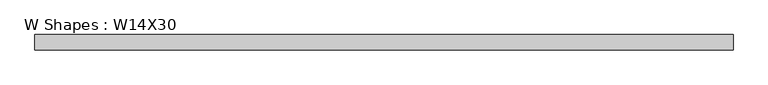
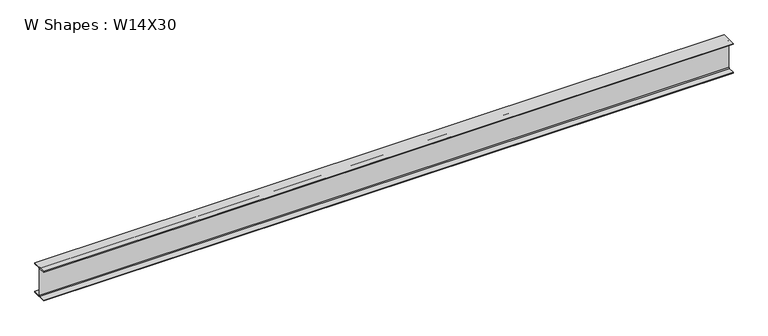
"""IFC4 building model written with IfcOpenShell, lengths in millimetres: beam geometry, W Shapes : W14X30."""

import ifcopenshell
import ifcopenshell.guid

model = None  # the IFC model being written
_history = None  # IfcOwnerHistory: only IFC2X3 demands one
_inside = {}  # id of a spatial element -> (the spatial element, [elements in it])
_under = {}  # id of a project, library or spatial element -> (it, [spatial elements below it])
_declared = {}  # id of a project -> (the project, [libraries it declares])
_typed = {}  # id of a type object -> (the type object, [elements of that type])
_made_of = {}  # id of a material, layer set ... -> (it, [elements and type objects made of it])


def new_model(schema):
    """Start an empty IFC model of exactly this schema.

    Asked for "IFC4X3", IfcOpenShell would pick the latest addendum, in which some entities
    have other attributes; the version numbers below select the first issue.
    IFC2X3 requires an IfcOwnerHistory on every rooted entity: one is made here for all.
    """
    global model, _history
    if schema == "IFC4X3":
        model = ifcopenshell.file(schema_version=(4, 3, 0, 0))
    else:
        model = ifcopenshell.file(schema=schema)
    _inside.clear()
    _under.clear()
    _declared.clear()
    _typed.clear()
    _made_of.clear()
    _history = None
    if model.schema == "IFC2X3":
        org = make("IfcOrganization", Name="unknown")
        user = make(
            "IfcPersonAndOrganization",
            ThePerson=make("IfcPerson", FamilyName="unknown"),
            TheOrganization=org,
        )
        app = make(
            "IfcApplication",
            ApplicationDeveloper=org,
            Version="unknown",
            ApplicationFullName="unknown",
            ApplicationIdentifier="unknown",
        )
        _history = make(
            "IfcOwnerHistory",
            OwningUser=user,
            OwningApplication=app,
            ChangeAction="ADDED",
            CreationDate=0,
        )
    return model


def make(cls, **values):
    """One entity of the class cls with the attributes given. An attribute that is None is left unset."""
    return model.create_entity(
        cls, **{name: value for name, value in values.items() if value is not None}
    )


def rooted(cls, **values):
    """An entity with a GlobalId (a new one), such as an element, a storey or a relation."""
    return make(cls, GlobalId=ifcopenshell.guid.new(), OwnerHistory=_history, **values)


def si_unit(unit_type, name, prefix=None):
    """IfcSIUnit, for example si_unit("LENGTHUNIT", "METRE", prefix="MILLI")."""
    return make("IfcSIUnit", UnitType=unit_type, Prefix=prefix, Name=name)


def assignment(units):
    """IfcUnitAssignment: the units of a project."""
    return None if units is None else make("IfcUnitAssignment", Units=units)


def point(xyz):
    """IfcCartesianPoint."""
    return None if xyz is None else make("IfcCartesianPoint", Coordinates=xyz)


def direction(xyz):
    """IfcDirection."""
    return None if xyz is None else make("IfcDirection", DirectionRatios=xyz)


def frame(location, z_axis=None, x_axis=None):
    """IfcAxis2Placement3D, a coordinate frame: its origin and axes. An axis left out is left unset."""
    return make(
        "IfcAxis2Placement3D",
        Location=point(location),
        Axis=direction(z_axis),
        RefDirection=direction(x_axis),
    )


def frame_2d(location, x_axis=None):
    """IfcAxis2Placement2D, a coordinate frame in the plane: its origin and x axis."""
    return make(
        "IfcAxis2Placement2D", Location=point(location), RefDirection=direction(x_axis)
    )


def origin():
    """The frame at (0, 0, 0) with its axes left unset."""
    return frame((0.0, 0.0, 0.0))


def place(relative_to, where):
    """IfcLocalPlacement: puts the frame where relative to a parent placement (None: the world)."""
    return make(
        "IfcLocalPlacement", PlacementRelTo=relative_to, RelativePlacement=where
    )


def context(
    kind, dimensions, precision=None, world=None, true_north=None, identifier=None
):
    """IfcGeometricRepresentationContext, for example the 3D "Model" context."""
    return make(
        "IfcGeometricRepresentationContext",
        ContextIdentifier=identifier,
        ContextType=kind,
        CoordinateSpaceDimension=dimensions,
        Precision=precision,
        WorldCoordinateSystem=world,
        TrueNorth=true_north,
    )


def project(units=None, contexts=None):
    """IfcProject with its units and contexts."""
    return rooted(
        "IfcProject",
        Name="project",
        RepresentationContexts=contexts,
        UnitsInContext=assignment(units),
    )


def spatial(cls, under=None, at=None, **own):
    """A site, building, storey or space (cls), placed at a placement, below another one or the project."""
    s = rooted(cls, ObjectPlacement=at, **own)
    if under is not None:
        _under.setdefault(under.id(), (under, []))[1].append(s)
    return s


def polyline(points):
    """IfcPolyline through the points."""
    return make("IfcPolyline", Points=[point(p) for p in points])


def circle_curve(where, radius):
    """IfcCircle in the frame where."""
    return make("IfcCircle", Position=where, Radius=radius)


def trimmed(basis, trim1, trim2, sense, master):
    """IfcTrimmedCurve: the piece of a basis curve between two trims."""
    return make(
        "IfcTrimmedCurve",
        BasisCurve=basis,
        Trim1=trim1,
        Trim2=trim2,
        SenseAgreement=sense,
        MasterRepresentation=master,
    )


def segment(curve, same_sense, transition):
    """IfcCompositeCurveSegment."""
    return make(
        "IfcCompositeCurveSegment",
        Transition=transition,
        SameSense=same_sense,
        ParentCurve=curve,
    )


def composite_curve(segments, self_intersect=None):
    """IfcCompositeCurve: segments joined end to end."""
    return make("IfcCompositeCurve", Segments=segments, SelfIntersect=self_intersect)


def outline(outer, holes=None, kind="AREA"):
    """IfcArbitraryClosedProfileDef: a profile drawn as a closed curve; with holes, ...WithVoids."""
    if holes is None:
        return make("IfcArbitraryClosedProfileDef", ProfileType=kind, OuterCurve=outer)
    return make(
        "IfcArbitraryProfileDefWithVoids",
        ProfileType=kind,
        OuterCurve=outer,
        InnerCurves=holes,
    )


def extrude(swept, where, along, depth):
    """IfcExtrudedAreaSolid: the profile swept, set in the frame where, extruded along a direction by depth."""
    return make(
        "IfcExtrudedAreaSolid",
        SweptArea=swept,
        Position=where,
        ExtrudedDirection=direction(along),
        Depth=depth,
    )


def shape(context_of_items, identifier, shape_type, items):
    """IfcShapeRepresentation: the items that make up one representation, for example the "Body"."""
    return make(
        "IfcShapeRepresentation",
        ContextOfItems=context_of_items,
        RepresentationIdentifier=identifier,
        RepresentationType=shape_type,
        Items=items,
    )


def source(mapping_origin, context_of_items, identifier, shape_type, items):
    """IfcRepresentationMap: a shape defined once, which mapped items show again and again."""
    return make(
        "IfcRepresentationMap",
        MappingOrigin=mapping_origin,
        MappedRepresentation=shape(context_of_items, identifier, shape_type, items),
    )


def transform(
    local_origin,
    x_axis=None,
    y_axis=None,
    z_axis=None,
    scale=None,
    scale2=None,
    scale3=None,
    uniform=True,
):
    """IfcCartesianTransformationOperator3D, or its non-uniform kind. x_axis, y_axis, z_axis: its Axis1, 2, 3."""
    if uniform:
        return make(
            "IfcCartesianTransformationOperator3D",
            Axis1=direction(x_axis),
            Axis2=direction(y_axis),
            LocalOrigin=point(local_origin),
            Scale=scale,
            Axis3=direction(z_axis),
        )
    return make(
        "IfcCartesianTransformationOperator3DnonUniform",
        Axis1=direction(x_axis),
        Axis2=direction(y_axis),
        LocalOrigin=point(local_origin),
        Scale=scale,
        Axis3=direction(z_axis),
        Scale2=scale2,
        Scale3=scale3,
    )


def mapped(mapping_source, mapping_target):
    """IfcMappedItem: shows the shape of a source again, moved by a transform."""
    return make(
        "IfcMappedItem", MappingSource=mapping_source, MappingTarget=mapping_target
    )


def made_of(thing, what):
    """Note that an element or type object is made of a material, layer set ...; save() writes the relation."""
    if what is not None:
        _made_of.setdefault(what.id(), (what, []))[1].append(thing)
    return thing


def element(
    cls,
    number,
    at=None,
    inside=None,
    cuts=None,
    type_object=None,
    material=None,
    context=None,
    identifier="Body",
    shape_type=None,
    held_by="IfcProductDefinitionShape",
    body=None,
    shapes=None,
    **own,
):
    """One element of the class cls, such as IfcWall. Its Tag is "e" and its number.

    at: its placement. inside: the storey or other place that contains it. cuts: it is an
    opening in that element (IfcRelVoidsElement). A single representation is given by context,
    identifier, shape_type and body (its items); several are given by shapes. held_by: the class
    of the entity that holds the representations. save() writes the other relations.
    """
    e = rooted(cls, Tag="e%d" % number, ObjectPlacement=at, **own)
    if body is not None:
        shapes = [shape(context, identifier, shape_type, body)]
    if shapes is not None:
        e.Representation = make(held_by, Representations=shapes)
    if inside is not None:
        _inside.setdefault(inside.id(), (inside, []))[1].append(e)
    if cuts is not None:
        rooted(
            "IfcRelVoidsElement", RelatingBuildingElement=cuts, RelatedOpeningElement=e
        )
    if type_object is not None:
        _typed.setdefault(type_object.id(), (type_object, []))[1].append(e)
    return made_of(e, material)


def aggregate(whole, parts):
    """IfcRelAggregates: a whole, such as a stair, and the parts it consists of."""
    return rooted("IfcRelAggregates", RelatingObject=whole, RelatedObjects=parts)


def save(model, path):
    """Write the relations noted so far, then the file.

    IfcRelAggregates (storeys below a building ...), IfcRelContainedInSpatialStructure (elements
    in a storey), IfcRelDefinesByType, IfcRelAssociatesMaterial and IfcRelDeclares: one each for
    every whole, place, type object, material and project.
    """
    for whole, parts in _under.values():
        aggregate(whole, parts)
    for where, things in _inside.values():
        rooted(
            "IfcRelContainedInSpatialStructure",
            RelatedElements=things,
            RelatingStructure=where,
        )
    for kind, things in _typed.values():
        rooted("IfcRelDefinesByType", RelatedObjects=things, RelatingType=kind)
    for what, things in _made_of.values():
        rooted("IfcRelAssociatesMaterial", RelatedObjects=things, RelatingMaterial=what)
    for by, libraries in _declared.values():
        rooted("IfcRelDeclares", RelatingContext=by, RelatedDefinitions=libraries)
    model.write(path)


def w_shapes_w14x30_3d09f0be(model_context):
    return source(origin(), model_context, "Body", "SweptSolid", [
        extrude(outline(composite_curve([segment(polyline([(85.471, -165.481), (85.471, -175.26), (-85.471, -175.26), (-85.471, -165.481), (-13.589, -165.481)]), True, "CONTINUOUS"), segment(trimmed(circle_curve(frame_2d((-13.589, -155.321)), 10.16), [point((-13.589, -165.481))], [point((-3.429, -155.321))], True, "CARTESIAN"), True, "CONTINUOUS"), segment(polyline([(-3.429, -155.321), (-3.429, 155.321)]), True, "CONTINUOUS"), segment(trimmed(circle_curve(frame_2d((-13.589, 155.321)), 10.16), [point((-3.429, 155.321))], [point((-13.589, 165.481))], True, "CARTESIAN"), True, "CONTINUOUS"), segment(polyline([(-13.589, 165.481), (-85.471, 165.481), (-85.471, 175.26), (85.471, 175.26), (85.471, 165.481), (13.589, 165.481)]), True, "CONTINUOUS"), segment(trimmed(circle_curve(frame_2d((13.589, 155.321)), 10.16), [point((13.589, 165.481))], [point((3.429, 155.321))], True, "CARTESIAN"), True, "CONTINUOUS"), segment(polyline([(3.429, 155.321), (3.429, -155.321)]), True, "CONTINUOUS"), segment(trimmed(circle_curve(frame_2d((13.589, -155.321)), 10.16), [point((3.429, -155.321))], [point((13.589, -165.481))], True, "CARTESIAN"), True, "CONTINUOUS"), segment(polyline([(13.589, -165.481), (85.471, -165.481)]), True, "CONTINUOUS")], self_intersect=False)), frame((-3880.358, 0.0, 0.0), z_axis=(1.0, 0.0, 0.0), x_axis=(0.0, 1.0, 0.0)), (0.0, 0.0, 1.0), 7760.716),
    ])


if __name__ == "__main__":
    model = new_model("IFC4")
    model_context = context("Model", 3, world=origin())
    ifc_project = project(units=[si_unit("LENGTHUNIT", "METRE", prefix="MILLI")], contexts=[model_context])
    site = spatial("IfcSite", under=ifc_project)
    building = spatial("IfcBuilding", under=site)
    placement = place(None, origin())
    w_shapes_w14x30_shape = w_shapes_w14x30_3d09f0be(model_context)
    element("IfcBeam", 1, ObjectType="W Shapes : W14X30", at=placement, inside=building, context=model_context, shape_type="MappedRepresentation", body=[
        mapped(w_shapes_w14x30_shape, transform((0.0, 0.0, 0.0), x_axis=(1.0, 0.0, 0.0), y_axis=(0.0, 1.0, 0.0), z_axis=(0.0, 0.0, 1.0))),
    ])
    save(model, "model.ifc")
